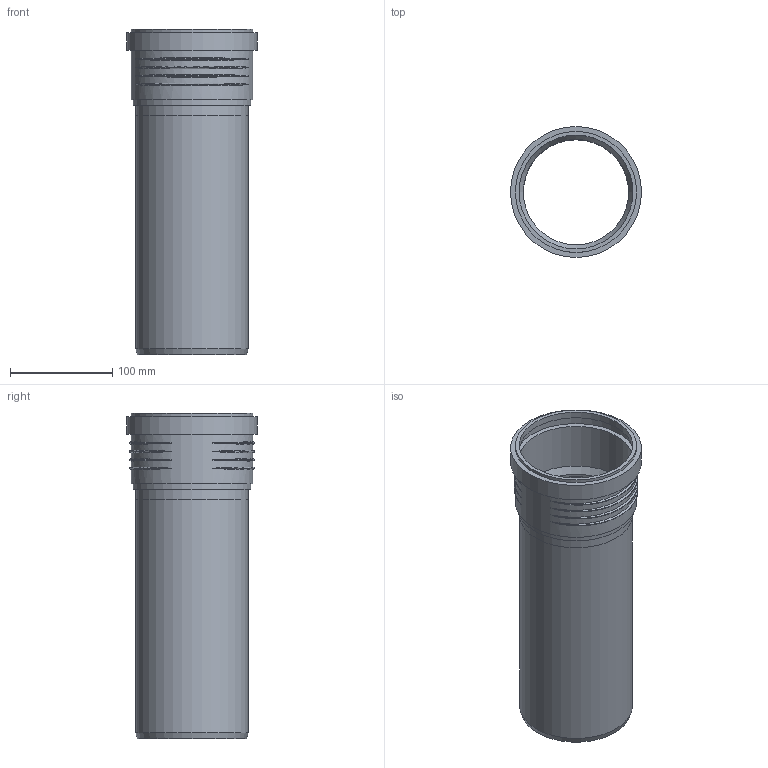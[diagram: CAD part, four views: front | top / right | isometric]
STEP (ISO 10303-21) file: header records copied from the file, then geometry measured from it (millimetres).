
FILE_DESCRIPTION(/* description */ (''),/* implementation_level */ '2;1');
FILE_NAME(/* name */ 'Z:\Geberit\Export\NewStep\390501.stp',/* time_stamp */ '2014-04-02T08:13:46+02:00',/* author */ ('ML'),/* organization */ (''),/* preprocessor_version */ 'ST-DEVELOPER v15.2',/* originating_system */ 'Autodesk Inventor 2014',/* authorisation */ '');
FILE_SCHEMA (('AUTOMOTIVE_DESIGN { 1 0 10303 214 3 1 1 }'));
Length unit declared in the file: millimetre
Products named in the file (3): 861703; 861704ohne; 390501
Bounding box: 128.1 x 128.1 x 318.1 mm (x, y, z)
Volume: 422957 mm3; surface area: 239773.8 mm2
Topology: 2 solids, 2 shells, 47 faces, 104 edges, 71 vertices
Faces by surface type: torus 24, cylinder 11, plane 10, cone 2
Full cylindrical faces by diameter (mm): 103 x2, 110.2 x2, 111.3 x2, 114.9 x1, 118.5 x2, 120.9 x1, 128.1 x1
Entity records: 2003 total; most frequent: CARTESIAN_POINT 962, DIRECTION 182, ORIENTED_EDGE 174, AXIS2_PLACEMENT_3D 91, EDGE_CURVE 87, EDGE_LOOP 78, VERTEX_POINT 71, STYLED_ITEM 49
